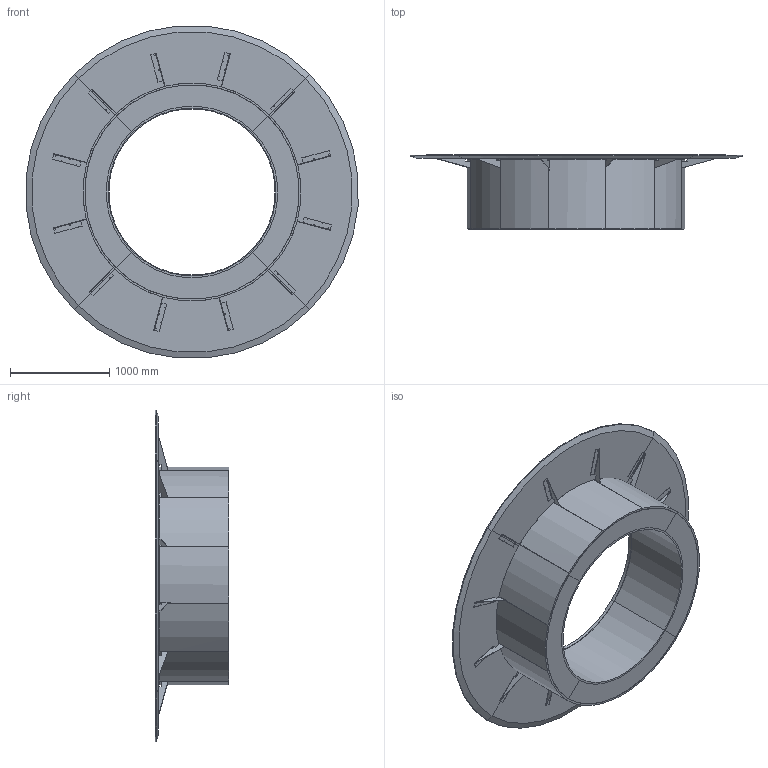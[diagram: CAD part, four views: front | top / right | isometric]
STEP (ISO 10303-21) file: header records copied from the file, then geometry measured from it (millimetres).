
FILE_DESCRIPTION(/* description */ ('','CAx-IF Rec.Pracs.---Representation and Presentation of Product Manufacturing Information (PMI)---4.0---2014-10-13'),/* implementation_level */ '2;1');
FILE_NAME(/* name */ 'TABLE_VIEWLINE 1.stp',/* time_stamp */ '2024-12-07T15:33:45-05:00',/* author */ ('mbowman'),/* organization */ (''),/* preprocessor_version */ 'ST-DEVELOPER v19.2',/* originating_system */ 'Autodesk Inventor 2023',/* authorisation */ '');
FILE_SCHEMA (('AP242_MANAGED_MODEL_BASED_3D_ENGINEERING_MIM_LF { 1 0 10303 442 1 1 4 }'));
Length unit declared in the file: inch
Products named in the file (29): VIEWLINE^TABLE 1_4 PC ROUND-FULL ASSEMBLY; VIEWLINE^TABLE 1_4 PC ROUND-QUARTER ASSEMBLY; _ASSEM_HINGE; _ASSEM_HINGE_1; VIEWLINE^TABLE 1_4 PC ROUND-QUARTER ASSEMBLY_1; _ASSEM_HINGE_2; _ASSEM_HINGE_3; VIEWLINE^TABLE 1_4 PC ROUND-QUARTER ASSEMBLY_2; VIEWLINE^TABLE 1_4 PC ROUND-WORKSURFACE; VIEWLINE^TABLE 1_4 PC ROUND-BASE FRONT PANEL; VIEWLINE^TABLE 1_4 PC ROUND-BASE TOP; VIEWLINE^TABLE 1_4 PC ROUND-BASE BOTTOM; VIEWLINE^TABLE 1_4 PC ROUND-LEFT END RIB; VIEWLINE^TABLE 1_4 PC ROUND-RIGHT END RIB; VIEWLINE^TABLE 1_4 PC ROUND-RIGHT CENTER RIB; VIEWLINE^TABLE 1_4 PC ROUND-LEFT CENTER RIB; VIEWLINE^TABLE 1_4 PC ROUND-RIGHT ACCESS PANEL; VIEWLINE^TABLE 1_4 PC ROUND-CENTER ACCESS PANEL; VIEWLINE^TABLE 1_4 PC ROUND-LEFT ACCESS PANEL; VIEWLINE^TABLE 1_4 PC ROUND-POWER LID; _ASSEM_HINGE_4; _ASSEM_HINGE_5; _SUPPORT; _TIGE_3; _ARM; _TIGE_2; _TIGE_1; CANTILEVER BRACKET H-496; INTERACT G2-UT
Assembly tree (124 placements, depth 4):
  VIEWLINE^TABLE 1_4 PC ROUND-FULL ASSEMBLY
    VIEWLINE^TABLE 1_4 PC ROUND-QUARTER ASSEMBLY
      VIEWLINE^TABLE 1_4 PC ROUND-WORKSURFACE
      VIEWLINE^TABLE 1_4 PC ROUND-BASE FRONT PANEL
      VIEWLINE^TABLE 1_4 PC ROUND-BASE TOP
      VIEWLINE^TABLE 1_4 PC ROUND-BASE BOTTOM
      VIEWLINE^TABLE 1_4 PC ROUND-LEFT END RIB
      VIEWLINE^TABLE 1_4 PC ROUND-RIGHT END RIB
      VIEWLINE^TABLE 1_4 PC ROUND-RIGHT CENTER RIB
      VIEWLINE^TABLE 1_4 PC ROUND-LEFT CENTER RIB
      VIEWLINE^TABLE 1_4 PC ROUND-RIGHT ACCESS PANEL
      VIEWLINE^TABLE 1_4 PC ROUND-CENTER ACCESS PANEL
      VIEWLINE^TABLE 1_4 PC ROUND-LEFT ACCESS PANEL
      VIEWLINE^TABLE 1_4 PC ROUND-POWER LID
      _ASSEM_HINGE
        _SUPPORT  x2
        _TIGE_3  x2
        _ARM  x4
        _TIGE_1  x2
        _TIGE_2
      _ASSEM_HINGE_1
        _SUPPORT  x2
        _TIGE_3  x2
        _ARM  x4
        _TIGE_1  x2
        _TIGE_2
      CANTILEVER BRACKET H-496  x3
      INTERACT G2-UT
    VIEWLINE^TABLE 1_4 PC ROUND-QUARTER ASSEMBLY_1  x2
      VIEWLINE^TABLE 1_4 PC ROUND-WORKSURFACE
      VIEWLINE^TABLE 1_4 PC ROUND-BASE FRONT PANEL
      VIEWLINE^TABLE 1_4 PC ROUND-BASE TOP
      VIEWLINE^TABLE 1_4 PC ROUND-BASE BOTTOM
      VIEWLINE^TABLE 1_4 PC ROUND-LEFT END RIB
      VIEWLINE^TABLE 1_4 PC ROUND-RIGHT END RIB
      VIEWLINE^TABLE 1_4 PC ROUND-RIGHT CENTER RIB
      VIEWLINE^TABLE 1_4 PC ROUND-LEFT CENTER RIB
      VIEWLINE^TABLE 1_4 PC ROUND-RIGHT ACCESS PANEL
      VIEWLINE^TABLE 1_4 PC ROUND-CENTER ACCESS PANEL
      VIEWLINE^TABLE 1_4 PC ROUND-LEFT ACCESS PANEL
      VIEWLINE^TABLE 1_4 PC ROUND-POWER LID
      _ASSEM_HINGE_2
        _SUPPORT  x2
        _TIGE_3  x2
        _ARM  x4
        _TIGE_1  x2
        _TIGE_2
      _ASSEM_HINGE_3
        _SUPPORT  x2
        _TIGE_3  x2
        _ARM  x4
        _TIGE_1  x2
        _TIGE_2
      CANTILEVER BRACKET H-496
      INTERACT G2-UT
    VIEWLINE^TABLE 1_4 PC ROUND-QUARTER ASSEMBLY_2
      VIEWLINE^TABLE 1_4 PC ROUND-WORKSURFACE
      VIEWLINE^TABLE 1_4 PC ROUND-BASE FRONT PANEL
      VIEWLINE^TABLE 1_4 PC ROUND-BASE TOP
      VIEWLINE^TABLE 1_4 PC ROUND-BASE BOTTOM
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Bounding box: 3340.04 x 742.95 x 3340.04 mm (x, y, z)
Volume: 471414416.3 mm3; surface area: 44488115.8 mm2
Topology: 168 solids, 168 shells, 5480 faces, 14720 edges, 9456 vertices
Faces by surface type: cylinder 3448, plane 1548, torus 384, sphere 64, cone 36
Full cylindrical faces by diameter (mm): 1 x168, 1.1 x16, 4.762 x108, 7.144 x4, 8 x4, 8.007 x12, 9.525 x8, 22.225 x8
Entity records: 24939 total; most frequent: CARTESIAN_POINT 7260, DIRECTION 3608, ORIENTED_EDGE 2896, EDGE_CURVE 1448, AXIS2_PLACEMENT_3D 1366, VERTEX_POINT 948, LINE 876, VECTOR 876
